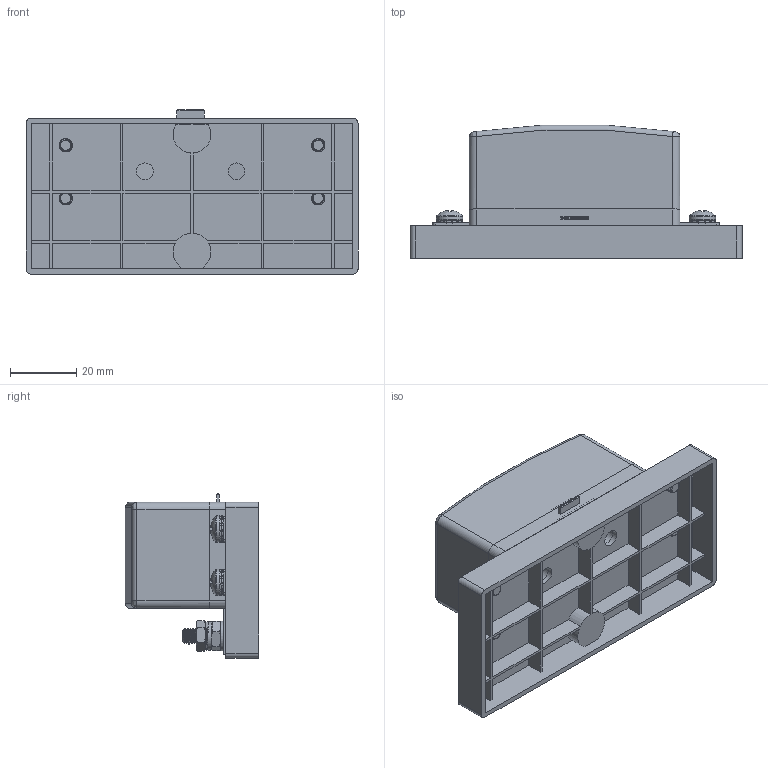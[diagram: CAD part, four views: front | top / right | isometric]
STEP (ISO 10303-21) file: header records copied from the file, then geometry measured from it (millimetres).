
FILE_DESCRIPTION(/* description */ (''),/* implementation_level */ '2;1');
FILE_NAME(/* name */ 'C:\Users\Hani\Desktop\work\BLR-504\BLR-I-504.stp',/* time_stamp */ '2021-07-07T12:20:21-07:00',/* author */ ('Hani'),/* organization */ (''),/* preprocessor_version */ 'ST-DEVELOPER v17',/* originating_system */ 'Autodesk Inventor 2019',/* authorisation */ '');
FILE_SCHEMA (('AUTOMOTIVE_DESIGN { 1 0 10303 214 3 1 1 }'));
Length unit declared in the file: inch
Products named in the file (13): BLR-I-504; BLR-504; BLR-I-504-BLOCK; plate2; STUD; WASHER; LOCK WASHER; HEX NUT; plate3; plate3_MIR; TOOTH LOCK WASHER; M4 PHILLIPS MACHINE SCREW; BLR-304-Cover
Assembly tree (19 placements, depth 2):
  BLR-I-504
    BLR-504
    BLR-I-504-BLOCK
    plate2
    STUD
    WASHER
    LOCK WASHER
    HEX NUT  x2
    plate3
    plate3_MIR
    TOOTH LOCK WASHER  x4
    M4 PHILLIPS MACHINE SCREW  x4
    BLR-304-Cover
Bounding box: 100.08 x 40.15 x 49.53 mm (x, y, z)
Volume: 50532.4 mm3; surface area: 45903.5 mm2
Topology: 21 solids, 21 shells, 1308 faces, 3479 edges, 2256 vertices
Faces by surface type: plane 595, cylinder 296, bspline 288, cone 88, torus 29, sphere 12
Full cylindrical faces by diameter (mm): 2.54 x4, 3.091 x28, 3.769 x16, 3.795 x2, 4 x28, 4.5 x4, 4.775 x1, 4.801 x17, 4.826 x6, 4.953 x1, 5.08 x4, 5.3 x4, 8 x4, 8.992 x1, 9.779 x2
Entity records: 32887 total; most frequent: CARTESIAN_POINT 12756, ORIENTED_EDGE 4342, DIRECTION 3627, EDGE_CURVE 2171, LINE 1413, VECTOR 1413, VERTEX_POINT 1412, AXIS2_PLACEMENT_3D 1107
